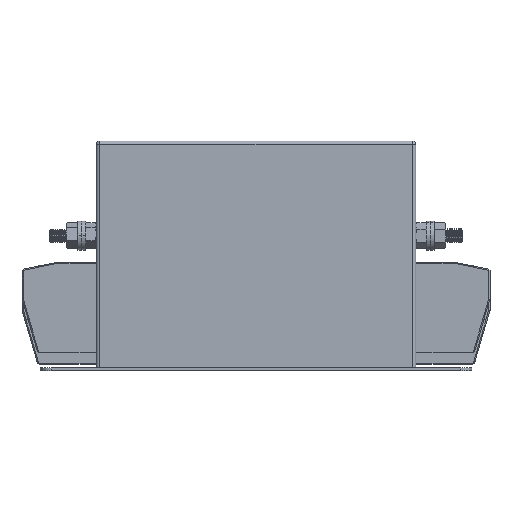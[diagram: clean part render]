
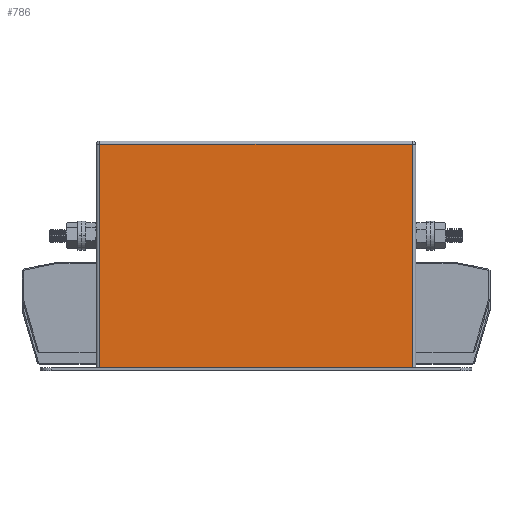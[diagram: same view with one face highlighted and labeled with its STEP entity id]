
A CAD part, top view. The second image highlights one B-rep face of the part: STEP entity #786.
In plain terms, the highlighted planar face has unit normal (0, 0, 1).
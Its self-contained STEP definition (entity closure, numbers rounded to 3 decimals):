
#703 = EDGE_LOOP ( 'NONE', ( #757, #761, #764, #767 ) ) ;
#757 = ORIENTED_EDGE ( 'NONE', *, *, #758, .T. ) ;
#758 = EDGE_CURVE ( 'NONE', #759, #760, #4052, .T. ) ;
#759 = VERTEX_POINT ( 'NONE', #4048 ) ;
#760 = VERTEX_POINT ( 'NONE', #4047 ) ;
#761 = ORIENTED_EDGE ( 'NONE', *, *, #762, .T. ) ;
#762 = EDGE_CURVE ( 'NONE', #760, #763, #4046, .T. ) ;
#763 = VERTEX_POINT ( 'NONE', #4042 ) ;
#764 = ORIENTED_EDGE ( 'NONE', *, *, #765, .T. ) ;
#765 = EDGE_CURVE ( 'NONE', #763, #766, #4041, .T. ) ;
#766 = VERTEX_POINT ( 'NONE', #4037 ) ;
#767 = ORIENTED_EDGE ( 'NONE', *, *, #768, .T. ) ;
#768 = EDGE_CURVE ( 'NONE', #766, #759, #4036, .T. ) ;
#786 = ADVANCED_FACE ( 'NONE', ( #4068 ), #4066, .F. ) ;
#4033 = DIRECTION ( 'NONE',  ( 0., 1., 0. ) ) ;
#4034 = VECTOR ( 'NONE', #4033, 1000. ) ;
#4035 = CARTESIAN_POINT ( 'NONE',  ( 165.5, 102., 0. ) ) ;
#4036 = LINE ( 'NONE', #4035, #4034 ) ;
#4037 = CARTESIAN_POINT ( 'NONE',  ( 165.5, 1.2, 0. ) ) ;
#4038 = DIRECTION ( 'NONE',  ( 1., 0., 0. ) ) ;
#4039 = VECTOR ( 'NONE', #4038, 1000. ) ;
#4040 = CARTESIAN_POINT ( 'NONE',  ( 25., 1.2, 0. ) ) ;
#4041 = LINE ( 'NONE', #4040, #4039 ) ;
#4042 = CARTESIAN_POINT ( 'NONE',  ( 26.5, 1.2, 0. ) ) ;
#4043 = DIRECTION ( 'NONE',  ( 0., -1., 0. ) ) ;
#4044 = VECTOR ( 'NONE', #4043, 1000. ) ;
#4045 = CARTESIAN_POINT ( 'NONE',  ( 26.5, 102., 0. ) ) ;
#4046 = LINE ( 'NONE', #4045, #4044 ) ;
#4047 = CARTESIAN_POINT ( 'NONE',  ( 26.5, 100.5, 0. ) ) ;
#4048 = CARTESIAN_POINT ( 'NONE',  ( 165.5, 100.5, 0. ) ) ;
#4049 = DIRECTION ( 'NONE',  ( -1., 0., 0. ) ) ;
#4050 = VECTOR ( 'NONE', #4049, 1000. ) ;
#4051 = CARTESIAN_POINT ( 'NONE',  ( 25., 100.5, 0. ) ) ;
#4052 = LINE ( 'NONE', #4051, #4050 ) ;
#4062 = DIRECTION ( 'NONE',  ( -1., 0., 0. ) ) ;
#4063 = DIRECTION ( 'NONE',  ( 0., 0., -1. ) ) ;
#4064 = CARTESIAN_POINT ( 'NONE',  ( 25., 102., 0. ) ) ;
#4065 = AXIS2_PLACEMENT_3D ( 'NONE', #4064, #4063, #4062 ) ;
#4066 = PLANE ( 'NONE',  #4065 ) ;
#4068 = FACE_OUTER_BOUND ( 'NONE', #703, .T. ) ;
